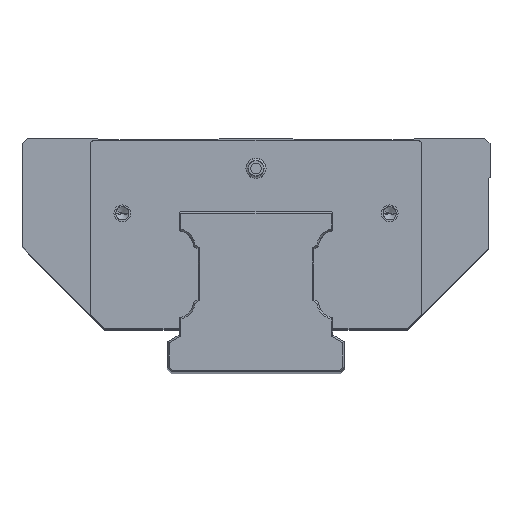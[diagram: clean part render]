
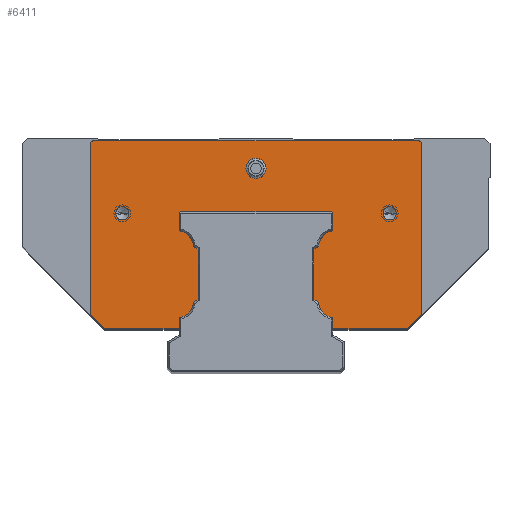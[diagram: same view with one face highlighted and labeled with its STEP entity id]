
A CAD part, top view. The second image highlights one B-rep face of the part: STEP entity #6411.
In plain terms, the highlighted planar face has unit normal (0, 0, 1).
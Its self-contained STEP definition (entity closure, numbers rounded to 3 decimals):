
#5415=CARTESIAN_POINT('',(48.5,-1.,21.7));
#5416=DIRECTION('',(0.,0.,1.));
#5417=DIRECTION('',(1.,0.,0.));
#5418=AXIS2_PLACEMENT_3D('',#5415,#5416,#5417);
#5423=DIRECTION('',(0.,1.,0.));
#5424=VECTOR('',#5423,51.1);
#5425=CARTESIAN_POINT('',(49.5,-52.1,21.7));
#5426=LINE('',#5425,#5424);
#5430=DIRECTION('',(0.707,0.707,0.));
#5431=VECTOR('',#5430,5.94);
#5432=CARTESIAN_POINT('',(45.3,-56.3,21.7));
#5433=LINE('',#5432,#5431);
#5437=DIRECTION('',(1.,0.,0.));
#5438=VECTOR('',#5437,22.3);
#5439=CARTESIAN_POINT('',(23.,-56.3,21.7));
#5440=LINE('',#5439,#5438);
#5444=DIRECTION('',(0.,1.,0.));
#5445=VECTOR('',#5444,3.295);
#5446=CARTESIAN_POINT('',(23.,-56.3,21.7));
#5447=LINE('',#5446,#5445);
#5451=CARTESIAN_POINT('',(23.571,-48.179,21.7));
#5452=DIRECTION('',(0.,0.,1.));
#5453=DIRECTION('',(-0.999,-0.039,0.));
#5454=AXIS2_PLACEMENT_3D('',#5451,#5452,#5453);
#5459=DIRECTION('',(-0.866,0.5,0.));
#5460=VECTOR('',#5459,1.633);
#5461=CARTESIAN_POINT('',(18.715,-48.367,21.7));
#5462=LINE('',#5461,#5460);
#5466=DIRECTION('',(0.,1.,0.));
#5467=VECTOR('',#5466,15.1);
#5468=CARTESIAN_POINT('',(17.3,-47.55,21.7));
#5469=LINE('',#5468,#5467);
#5473=DIRECTION('',(0.866,0.5,0.));
#5474=VECTOR('',#5473,1.633);
#5475=CARTESIAN_POINT('',(17.3,-32.45,21.7));
#5476=LINE('',#5475,#5474);
#5480=CARTESIAN_POINT('',(23.571,-31.821,21.7));
#5481=DIRECTION('',(0.,0.,1.));
#5482=DIRECTION('',(-0.117,0.993,0.));
#5483=AXIS2_PLACEMENT_3D('',#5480,#5481,#5482);
#5488=DIRECTION('',(0.,1.,0.));
#5489=VECTOR('',#5488,5.1);
#5490=CARTESIAN_POINT('',(23.,-26.995,21.7));
#5491=LINE('',#5490,#5489);
#5495=DIRECTION('',(-0.707,0.707,0.));
#5496=VECTOR('',#5495,0.7);
#5497=CARTESIAN_POINT('',(23.,-21.895,21.7));
#5498=LINE('',#5497,#5496);
#5502=DIRECTION('',(-1.,0.,0.));
#5503=VECTOR('',#5502,45.01);
#5504=CARTESIAN_POINT('',(22.505,-21.4,21.7));
#5505=LINE('',#5504,#5503);
#5509=DIRECTION('',(-0.707,-0.707,0.));
#5510=VECTOR('',#5509,0.7);
#5511=CARTESIAN_POINT('',(-22.505,-21.4,21.7));
#5512=LINE('',#5511,#5510);
#5516=DIRECTION('',(0.,-1.,0.));
#5517=VECTOR('',#5516,5.1);
#5518=CARTESIAN_POINT('',(-23.,-21.895,21.7));
#5519=LINE('',#5518,#5517);
#5523=CARTESIAN_POINT('',(-23.571,-31.821,21.7));
#5524=DIRECTION('',(0.,0.,1.));
#5525=DIRECTION('',(0.999,0.039,0.));
#5526=AXIS2_PLACEMENT_3D('',#5523,#5524,#5525);
#5531=DIRECTION('',(0.866,-0.5,0.));
#5532=VECTOR('',#5531,1.633);
#5533=CARTESIAN_POINT('',(-18.715,-31.633,21.7));
#5534=LINE('',#5533,#5532);
#5538=DIRECTION('',(0.,-1.,0.));
#5539=VECTOR('',#5538,15.1);
#5540=CARTESIAN_POINT('',(-17.3,-32.45,21.7));
#5541=LINE('',#5540,#5539);
#5545=DIRECTION('',(-0.866,-0.5,0.));
#5546=VECTOR('',#5545,1.633);
#5547=CARTESIAN_POINT('',(-17.3,-47.55,21.7));
#5548=LINE('',#5547,#5546);
#5552=CARTESIAN_POINT('',(-23.571,-48.179,21.7));
#5553=DIRECTION('',(0.,0.,1.));
#5554=DIRECTION('',(0.117,-0.993,0.));
#5555=AXIS2_PLACEMENT_3D('',#5552,#5553,#5554);
#5560=DIRECTION('',(0.,1.,0.));
#5561=VECTOR('',#5560,3.295);
#5562=CARTESIAN_POINT('',(-23.,-56.3,21.7));
#5563=LINE('',#5562,#5561);
#5567=DIRECTION('',(1.,0.,0.));
#5568=VECTOR('',#5567,22.3);
#5569=CARTESIAN_POINT('',(-45.3,-56.3,21.7));
#5570=LINE('',#5569,#5568);
#5574=DIRECTION('',(0.707,-0.707,0.));
#5575=VECTOR('',#5574,5.94);
#5576=CARTESIAN_POINT('',(-49.5,-52.1,21.7));
#5577=LINE('',#5576,#5575);
#5581=DIRECTION('',(0.,-1.,0.));
#5582=VECTOR('',#5581,51.1);
#5583=CARTESIAN_POINT('',(-49.5,-1.,21.7));
#5584=LINE('',#5583,#5582);
#5588=CARTESIAN_POINT('',(-48.5,-1.,21.7));
#5589=DIRECTION('',(0.,0.,1.));
#5590=DIRECTION('',(0.,1.,0.));
#5591=AXIS2_PLACEMENT_3D('',#5588,#5589,#5590);
#5596=DIRECTION('',(-1.,0.,0.));
#5597=VECTOR('',#5596,97.);
#5598=CARTESIAN_POINT('',(48.5,0.,21.7));
#5599=LINE('',#5598,#5597);
#5603=CARTESIAN_POINT('',(40.,-21.7,21.7));
#5604=DIRECTION('',(0.,0.,1.));
#5605=DIRECTION('',(-1.,0.,0.));
#5606=AXIS2_PLACEMENT_3D('',#5603,#5604,#5605);
#5611=CARTESIAN_POINT('',(40.,-21.7,21.7));
#5612=DIRECTION('',(0.,0.,1.));
#5613=DIRECTION('',(1.,0.,0.));
#5614=AXIS2_PLACEMENT_3D('',#5611,#5612,#5613);
#5619=CARTESIAN_POINT('',(-40.,-21.7,21.7));
#5620=DIRECTION('',(0.,0.,1.));
#5621=DIRECTION('',(-1.,0.,0.));
#5622=AXIS2_PLACEMENT_3D('',#5619,#5620,#5621);
#5627=CARTESIAN_POINT('',(-40.,-21.7,21.7));
#5628=DIRECTION('',(0.,0.,1.));
#5629=DIRECTION('',(1.,0.,0.));
#5630=AXIS2_PLACEMENT_3D('',#5627,#5628,#5629);
#5635=CARTESIAN_POINT('',(0.,-8.3,21.7));
#5636=DIRECTION('',(0.,0.,1.));
#5637=DIRECTION('',(-1.,0.,0.));
#5638=AXIS2_PLACEMENT_3D('',#5635,#5636,#5637);
#5643=CARTESIAN_POINT('',(0.,-8.3,21.7));
#5644=DIRECTION('',(0.,0.,1.));
#5645=DIRECTION('',(1.,0.,0.));
#5646=AXIS2_PLACEMENT_3D('',#5643,#5644,#5645);
#5819=CARTESIAN_POINT('',(45.3,-56.3,21.7));
#5820=CARTESIAN_POINT('',(49.5,-52.1,21.7));
#5821=VERTEX_POINT('',#5819);
#5822=VERTEX_POINT('',#5820);
#5823=CARTESIAN_POINT('',(-49.5,-52.1,21.7));
#5824=CARTESIAN_POINT('',(-45.3,-56.3,21.7));
#5825=VERTEX_POINT('',#5823);
#5826=VERTEX_POINT('',#5824);
#5833=CARTESIAN_POINT('',(38.,-21.7,21.7));
#5834=VERTEX_POINT('',#5833);
#5835=CARTESIAN_POINT('',(42.,-21.7,21.7));
#5836=VERTEX_POINT('',#5835);
#5843=CARTESIAN_POINT('',(-42.,-21.7,21.7));
#5844=VERTEX_POINT('',#5843);
#5845=CARTESIAN_POINT('',(-38.,-21.7,21.7));
#5846=VERTEX_POINT('',#5845);
#5853=CARTESIAN_POINT('',(-3.,-8.3,21.7));
#5854=CARTESIAN_POINT('',(3.,-8.3,21.7));
#5855=VERTEX_POINT('',#5853);
#5856=VERTEX_POINT('',#5854);
#5861=CARTESIAN_POINT('',(49.5,-1.,21.7));
#5862=VERTEX_POINT('',#5861);
#5863=CARTESIAN_POINT('',(48.5,0.,21.7));
#5864=VERTEX_POINT('',#5863);
#5869=CARTESIAN_POINT('',(-48.5,0.,21.7));
#5870=VERTEX_POINT('',#5869);
#5871=CARTESIAN_POINT('',(-49.5,-1.,21.7));
#5872=VERTEX_POINT('',#5871);
#5909=CARTESIAN_POINT('',(23.,-56.3,21.7));
#5910=VERTEX_POINT('',#5909);
#5911=CARTESIAN_POINT('',(-23.,-56.3,21.7));
#5912=VERTEX_POINT('',#5911);
#5913=CARTESIAN_POINT('',(23.,-53.005,21.7));
#5914=VERTEX_POINT('',#5913);
#5915=CARTESIAN_POINT('',(18.715,-48.367,21.7));
#5916=VERTEX_POINT('',#5915);
#5917=CARTESIAN_POINT('',(17.3,-47.55,21.7));
#5918=VERTEX_POINT('',#5917);
#5919=CARTESIAN_POINT('',(17.3,-32.45,21.7));
#5920=VERTEX_POINT('',#5919);
#5921=CARTESIAN_POINT('',(18.715,-31.633,21.7));
#5922=VERTEX_POINT('',#5921);
#5923=CARTESIAN_POINT('',(23.,-26.995,21.7));
#5924=VERTEX_POINT('',#5923);
#5925=CARTESIAN_POINT('',(23.,-21.895,21.7));
#5926=VERTEX_POINT('',#5925);
#5927=CARTESIAN_POINT('',(22.505,-21.4,21.7));
#5928=VERTEX_POINT('',#5927);
#5929=CARTESIAN_POINT('',(-22.505,-21.4,21.7));
#5930=VERTEX_POINT('',#5929);
#5931=CARTESIAN_POINT('',(-23.,-21.895,21.7));
#5932=VERTEX_POINT('',#5931);
#5933=CARTESIAN_POINT('',(-23.,-26.995,21.7));
#5934=VERTEX_POINT('',#5933);
#5935=CARTESIAN_POINT('',(-18.715,-31.633,21.7));
#5936=VERTEX_POINT('',#5935);
#5937=CARTESIAN_POINT('',(-17.3,-32.45,21.7));
#5938=VERTEX_POINT('',#5937);
#5939=CARTESIAN_POINT('',(-17.3,-47.55,21.7));
#5940=VERTEX_POINT('',#5939);
#5941=CARTESIAN_POINT('',(-18.715,-48.367,21.7));
#5942=VERTEX_POINT('',#5941);
#5943=CARTESIAN_POINT('',(-23.,-53.005,21.7));
#5944=VERTEX_POINT('',#5943);
#6356=CARTESIAN_POINT('',(0.,0.,21.7));
#6357=DIRECTION('',(0.,0.,1.));
#6358=DIRECTION('',(1.,0.,0.));
#6359=AXIS2_PLACEMENT_3D('',#6356,#6357,#6358);
#6360=PLANE('',#6359);
#6361=ORIENTED_EDGE('',*,*,#6020,.F.);
#6362=ORIENTED_EDGE('',*,*,#6043,.F.);
#6363=ORIENTED_EDGE('',*,*,#6063,.F.);
#6364=ORIENTED_EDGE('',*,*,#6083,.F.);
#6365=ORIENTED_EDGE('',*,*,#6127,.T.);
#6366=ORIENTED_EDGE('',*,*,#6141,.F.);
#6367=ORIENTED_EDGE('',*,*,#6155,.T.);
#6368=ORIENTED_EDGE('',*,*,#6169,.T.);
#6369=ORIENTED_EDGE('',*,*,#6183,.T.);
#6370=ORIENTED_EDGE('',*,*,#6197,.F.);
#6371=ORIENTED_EDGE('',*,*,#6211,.T.);
#6372=ORIENTED_EDGE('',*,*,#6225,.T.);
#6373=ORIENTED_EDGE('',*,*,#6239,.T.);
#6374=ORIENTED_EDGE('',*,*,#6253,.T.);
#6375=ORIENTED_EDGE('',*,*,#6267,.T.);
#6376=ORIENTED_EDGE('',*,*,#6281,.F.);
#6377=ORIENTED_EDGE('',*,*,#6295,.T.);
#6378=ORIENTED_EDGE('',*,*,#6309,.T.);
#6379=ORIENTED_EDGE('',*,*,#6323,.T.);
#6380=ORIENTED_EDGE('',*,*,#6337,.F.);
#6381=ORIENTED_EDGE('',*,*,#6350,.F.);
#6382=ORIENTED_EDGE('',*,*,#6107,.F.);
#6384=ORIENTED_EDGE('',*,*,#6383,.F.);
#6386=ORIENTED_EDGE('',*,*,#6385,.F.);
#6388=ORIENTED_EDGE('',*,*,#6387,.F.);
#6390=ORIENTED_EDGE('',*,*,#6389,.F.);
#6391=EDGE_LOOP('',(#6361,#6362,#6363,#6364,#6365,#6366,#6367,#6368,#6369,#6370,
#6371,#6372,#6373,#6374,#6375,#6376,#6377,#6378,#6379,#6380,#6381,#6382,#6384,
#6386,#6388,#6390));
#6392=FACE_OUTER_BOUND('',#6391,.F.);
#6394=ORIENTED_EDGE('',*,*,#6393,.T.);
#6396=ORIENTED_EDGE('',*,*,#6395,.T.);
#6397=EDGE_LOOP('',(#6394,#6396));
#6398=FACE_BOUND('',#6397,.F.);
#6400=ORIENTED_EDGE('',*,*,#6399,.T.);
#6402=ORIENTED_EDGE('',*,*,#6401,.T.);
#6403=EDGE_LOOP('',(#6400,#6402));
#6404=FACE_BOUND('',#6403,.F.);
#6406=ORIENTED_EDGE('',*,*,#6405,.T.);
#6408=ORIENTED_EDGE('',*,*,#6407,.T.);
#6409=EDGE_LOOP('',(#6406,#6408));
#6410=FACE_BOUND('',#6409,.F.);
#5419=CIRCLE('',#5418,1.);
#5455=CIRCLE('',#5454,4.86);
#5484=CIRCLE('',#5483,4.86);
#5527=CIRCLE('',#5526,4.86);
#5556=CIRCLE('',#5555,4.86);
#5592=CIRCLE('',#5591,1.);
#5607=CIRCLE('',#5606,2.);
#5615=CIRCLE('',#5614,2.);
#5623=CIRCLE('',#5622,2.);
#5631=CIRCLE('',#5630,2.);
#5639=CIRCLE('',#5638,3.);
#5647=CIRCLE('',#5646,3.);
#6020=EDGE_CURVE('',#5862,#5864,#5419,.T.);
#6043=EDGE_CURVE('',#5822,#5862,#5426,.T.);
#6063=EDGE_CURVE('',#5821,#5822,#5433,.T.);
#6083=EDGE_CURVE('',#5910,#5821,#5440,.T.);
#6107=EDGE_CURVE('',#5826,#5912,#5570,.T.);
#6127=EDGE_CURVE('',#5910,#5914,#5447,.T.);
#6141=EDGE_CURVE('',#5916,#5914,#5455,.T.);
#6155=EDGE_CURVE('',#5916,#5918,#5462,.T.);
#6169=EDGE_CURVE('',#5918,#5920,#5469,.T.);
#6183=EDGE_CURVE('',#5920,#5922,#5476,.T.);
#6197=EDGE_CURVE('',#5924,#5922,#5484,.T.);
#6211=EDGE_CURVE('',#5924,#5926,#5491,.T.);
#6225=EDGE_CURVE('',#5926,#5928,#5498,.T.);
#6239=EDGE_CURVE('',#5928,#5930,#5505,.T.);
#6253=EDGE_CURVE('',#5930,#5932,#5512,.T.);
#6267=EDGE_CURVE('',#5932,#5934,#5519,.T.);
#6281=EDGE_CURVE('',#5936,#5934,#5527,.T.);
#6295=EDGE_CURVE('',#5936,#5938,#5534,.T.);
#6309=EDGE_CURVE('',#5938,#5940,#5541,.T.);
#6323=EDGE_CURVE('',#5940,#5942,#5548,.T.);
#6337=EDGE_CURVE('',#5944,#5942,#5556,.T.);
#6350=EDGE_CURVE('',#5912,#5944,#5563,.T.);
#6383=EDGE_CURVE('',#5825,#5826,#5577,.T.);
#6385=EDGE_CURVE('',#5872,#5825,#5584,.T.);
#6387=EDGE_CURVE('',#5870,#5872,#5592,.T.);
#6389=EDGE_CURVE('',#5864,#5870,#5599,.T.);
#6393=EDGE_CURVE('',#5834,#5836,#5607,.T.);
#6395=EDGE_CURVE('',#5836,#5834,#5615,.T.);
#6399=EDGE_CURVE('',#5844,#5846,#5623,.T.);
#6401=EDGE_CURVE('',#5846,#5844,#5631,.T.);
#6405=EDGE_CURVE('',#5855,#5856,#5639,.T.);
#6407=EDGE_CURVE('',#5856,#5855,#5647,.T.);
#6411=ADVANCED_FACE('',(#6392,#6398,#6404,#6410),#6360,.T.);
